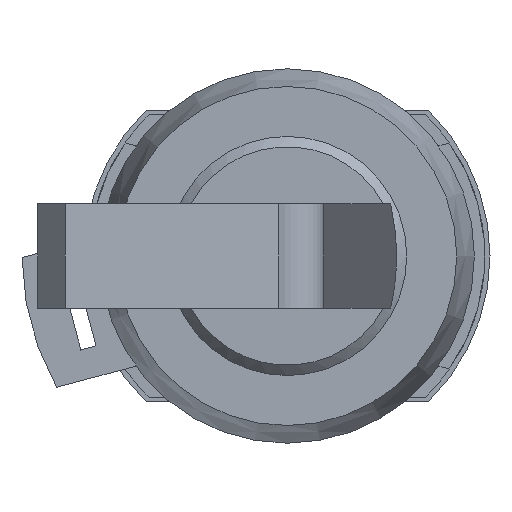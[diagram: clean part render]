
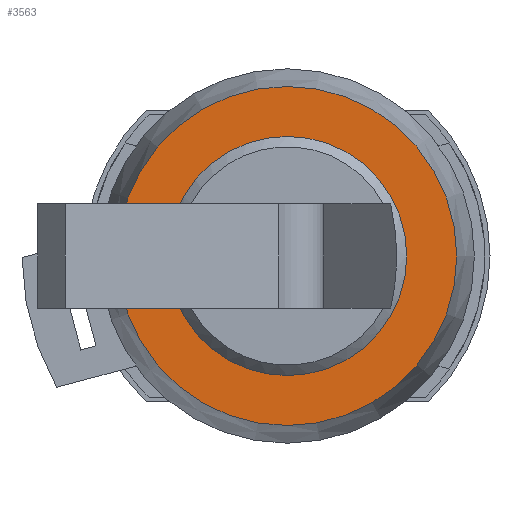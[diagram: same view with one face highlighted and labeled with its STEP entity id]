
A CAD part, left-side view. The second image highlights one B-rep face of the part: STEP entity #3563.
In plain terms, the highlighted planar face has unit normal (-1, 0, 0).
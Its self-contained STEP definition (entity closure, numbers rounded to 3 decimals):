
#5 = EDGE_LOOP ( 'NONE', ( #8745 ) ) ;
#16 = EDGE_LOOP ( 'NONE', ( #8744 ) ) ;
#575 = EDGE_CURVE ( 'NONE', #7009, #7009, #2294, .T. ) ;
#578 = EDGE_CURVE ( 'NONE', #7013, #7013, #2297, .T. ) ;
#1144 = AXIS2_PLACEMENT_3D ( 'NONE', #2734, #2741, #2742 ) ;
#1146 = AXIS2_PLACEMENT_3D ( 'NONE', #2740, #2749, #2750 ) ;
#1247 = AXIS2_PLACEMENT_3D ( 'NONE', #5318, #5328, #5329 ) ;
#2294 = CIRCLE ( 'NONE', #1144, 11.5 ) ;
#2297 = CIRCLE ( 'NONE', #1146, 16.3 ) ;
#2734 = CARTESIAN_POINT ( 'NONE',  ( 0., 0., 0. ) ) ;
#2740 = CARTESIAN_POINT ( 'NONE',  ( 0., 0., 0. ) ) ;
#2741 = DIRECTION ( 'NONE',  ( 1., 0., 0. ) ) ;
#2742 = DIRECTION ( 'NONE',  ( 0., 1., 0. ) ) ;
#2749 = DIRECTION ( 'NONE',  ( 1., 0., 0. ) ) ;
#2750 = DIRECTION ( 'NONE',  ( 0., 1., 0. ) ) ;
#3563 = ADVANCED_FACE ( 'NONE', ( #4768, #4773 ), #5327, .T. ) ;
#4768 = FACE_BOUND ( 'NONE', #16, .T. ) ;
#4773 = FACE_OUTER_BOUND ( 'NONE', #5, .T. ) ;
#5318 = CARTESIAN_POINT ( 'NONE',  ( 0., 13.9, 0. ) ) ;
#5327 = PLANE ( 'NONE',  #1247 ) ;
#5328 = DIRECTION ( 'NONE',  ( -1., 0., 0. ) ) ;
#5329 = DIRECTION ( 'NONE',  ( 0., -1., 0. ) ) ;
#7009 = VERTEX_POINT ( 'NONE', #7010 ) ;
#7010 = CARTESIAN_POINT ( 'NONE',  ( 0., 11.5, 0. ) ) ;
#7013 = VERTEX_POINT ( 'NONE', #7014 ) ;
#7014 = CARTESIAN_POINT ( 'NONE',  ( 0., 16.3, 0. ) ) ;
#8744 = ORIENTED_EDGE ( 'NONE', *, *, #575, .T. ) ;
#8745 = ORIENTED_EDGE ( 'NONE', *, *, #578, .F. ) ;
